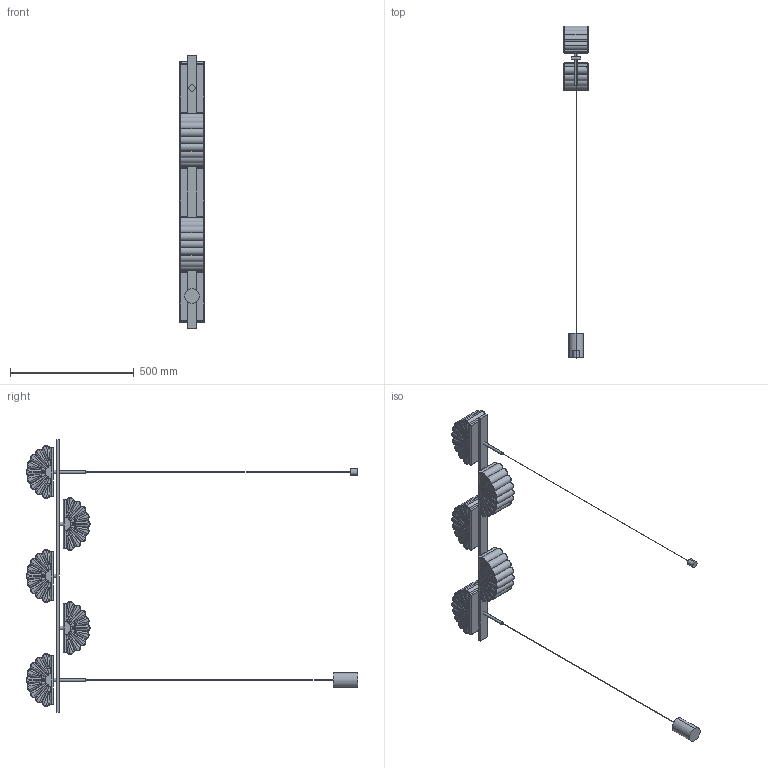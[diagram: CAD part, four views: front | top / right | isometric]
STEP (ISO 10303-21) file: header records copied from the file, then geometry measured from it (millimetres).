
FILE_DESCRIPTION (( 'STEP AP214' ), '1' );
FILE_NAME ('GINA_C1334_5.STEP', '2024-09-18T07:42:55', ( '' ), ( '' ), 'SwSTEP 2.0', 'SolidWorks 2018', '' );
FILE_SCHEMA (( 'AUTOMOTIVE_DESIGN' ));
Length unit declared in the file: millimetre
Products named in the file (1): GINA_C1334_5
Bounding box: 100 x 1339.17 x 1100 mm (x, y, z)
Volume: 9582556.8 mm3; surface area: 638430.9 mm2
Topology: 12 solids, 12 shells, 1290 faces, 3223 edges, 1957 vertices
Faces by surface type: bspline 660, plane 213, cone 140, cylinder 132, torus 110, sphere 35
Entity records: 79559 total; most frequent: CARTESIAN_POINT 40826, ORIENTED_EDGE 6426, DIRECTION 3289, EDGE_CURVE 3213, VERTEX_POINT 1957, B_SPLINE_CURVE_WITH_KNOTS 1950, AXIS2_PLACEMENT_3D 1470, UNCERTAINTY_MEASURE_WITH_UNIT 1304
